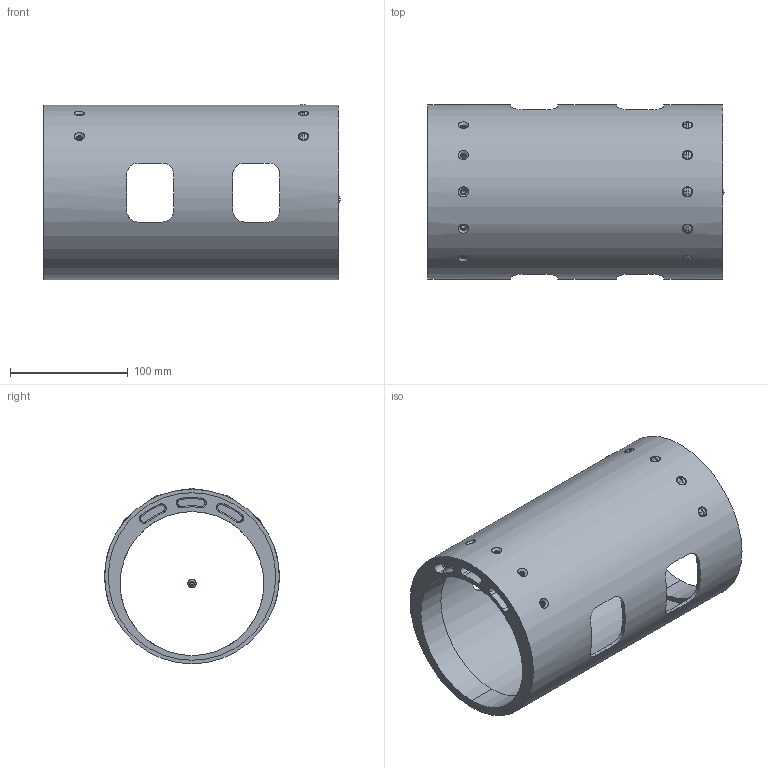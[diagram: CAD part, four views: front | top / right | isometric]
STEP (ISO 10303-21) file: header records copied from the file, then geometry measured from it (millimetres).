
FILE_DESCRIPTION(('TFLEX Exchange Step'),'2;1');
FILE_NAME('X2\04210411\X0\.stp', '2025-10-22T11:19:54+03:00',('ARM_513_VVK'),('Unknown organisation'),'TFLEX Exchange 2023.0','T-FLEX CAD','Unknown authorisation');
FILE_SCHEMA( ('AUTOMOTIVE_DESIGN { 1 0 10303 214 1 1 1 1 }') );
Length unit declared in the file: millimetre
Products named in the file (4): Винт A.М4x12 ГОСТ 17474; 3D фрагмент_3; 3D фрагмент_2; СБ
Assembly tree (8 placements, depth 2):
  СБ
    Винт A.М4x12 ГОСТ 17474  x5
    3D фрагмент_3  x2
    3D фрагмент_2
Bounding box: 250.98 x 148 x 148.87 mm (x, y, z)
Volume: 688448.3 mm3; surface area: 322180.2 mm2
Topology: 10 solids, 10 shells, 320 faces, 825 edges, 531 vertices
Faces by surface type: cylinder 130, plane 66, cone 55, torus 51, sphere 18
Full cylindrical faces by diameter (mm): 3.242 x15, 4 x6, 4.8 x10, 142 x1, 148 x1
Entity records: 10098 total; most frequent: CARTESIAN_POINT 6681, ORIENTED_EDGE 686, DIRECTION 676, EDGE_CURVE 343, AXIS2_PLACEMENT_3D 276, VERTEX_POINT 226, EDGE_LOOP 169, FACE_BOUND 169
